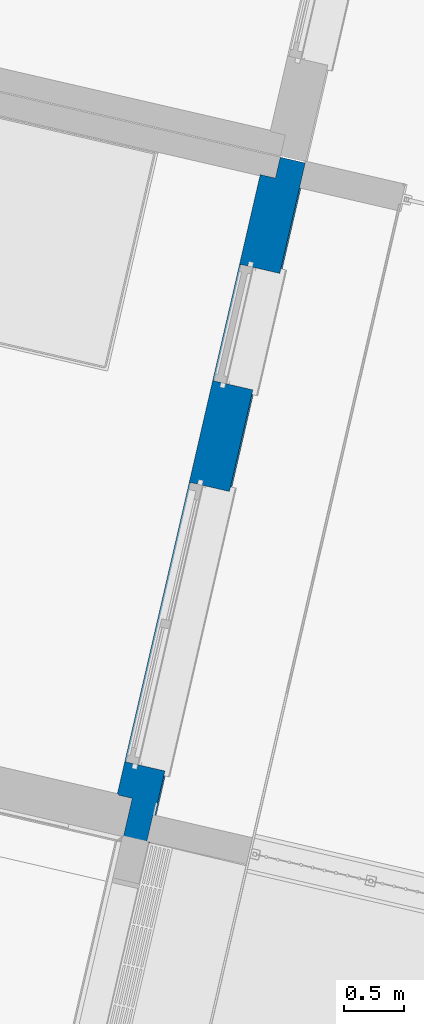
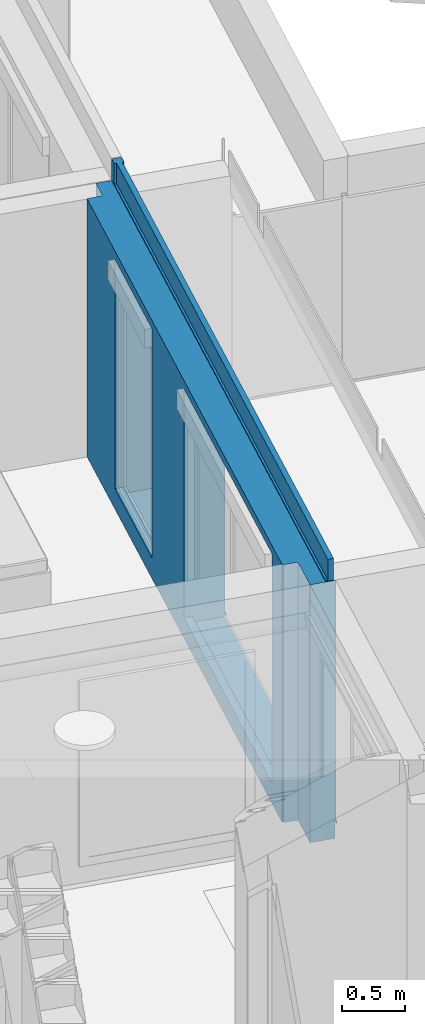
# One storey, part 25 of 119: 1 wall, 2 openings.
"""IFC2X3 building model written with IfcOpenShell, lengths in metres."""

from ifc_helpers import new_model, entity, si_unit, converted_unit, derived_unit, money_unit, direction, frame, origin_with_axes, place, context, subcontext, project, spatial, faceted_brep, material, material_list, type_object, element, save


model = new_model("IFC2X3")

# Units and contexts
model_context = context("Model", 3, precision=1e-05, world=origin_with_axes(), true_north=direction((0.0, 1.0)))
body_context = subcontext(model_context, "Body", "Model", "MODEL_VIEW")
ifc_project = project(units=[si_unit("LENGTHUNIT", "METRE"), si_unit("AREAUNIT", "SQUARE_METRE"), si_unit("VOLUMEUNIT", "CUBIC_METRE"), converted_unit("PLANEANGLEUNIT", "DEGREE", entity("IfcPlaneAngleMeasure", 0.0174532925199), si_unit("PLANEANGLEUNIT", "RADIAN"), dimensions=[0, 0, 0, 0, 0, 0, 0]), si_unit("SOLIDANGLEUNIT", "STERADIAN"), money_unit("EUR"), converted_unit("TIMEUNIT", "Year", entity("IfcTimeMeasure", 31556926.0), si_unit("TIMEUNIT", "SECOND"), dimensions=[0, 0, 1, 0, 0, 0, 0]), si_unit("MASSUNIT", "GRAM", prefix="KILO"), si_unit("THERMODYNAMICTEMPERATUREUNIT", "DEGREE_CELSIUS"), si_unit("LUMINOUSINTENSITYUNIT", "LUMEN"), si_unit("ENERGYUNIT", "JOULE", prefix="MEGA"), derived_unit("THERMALCONDUCTANCEUNIT", [(si_unit("POWERUNIT", "WATT"), 1), (si_unit("LENGTHUNIT", "METRE"), -1), (si_unit("THERMODYNAMICTEMPERATUREUNIT", "KELVIN"), -1)]), derived_unit("SPECIFICHEATCAPACITYUNIT", [(si_unit("ENERGYUNIT", "JOULE"), 1), (si_unit("MASSUNIT", "GRAM", prefix="KILO"), -1), (si_unit("THERMODYNAMICTEMPERATUREUNIT", "KELVIN"), -1)]), derived_unit("MASSDENSITYUNIT", [(si_unit("MASSUNIT", "GRAM", prefix="KILO"), 1), (si_unit("VOLUMEUNIT", "CUBIC_METRE"), -1)])], contexts=[model_context])

# Site, building, storey
site_placement = place(None, origin_with_axes())
site = spatial("IfcSite", under=ifc_project, at=site_placement, Name="Site", CompositionType="ELEMENT")
building_placement = place(site_placement, origin_with_axes())
building = spatial("IfcBuilding", under=site, at=building_placement, Name="Bâtiment", CompositionType="ELEMENT")
storey_placement = place(building_placement, origin_with_axes())
storey = spatial("IfcBuildingStorey", under=building, at=storey_placement, Name="Rez-de-chaussée", CompositionType="ELEMENT", Elevation=0.0)

# Wall, openings
ifc_material_1 = material(Name="Métal - Aluminium")
ifc_material_2 = material(Name="Finition ext - Crépis")
ifc_material_3 = material(Name="Etanchéité - Bitume")
ifc_material_4 = material(Name="Béton cellulaire")
ifc_material_5 = material(Name="Mortier")
ifc_material_6 = material(Name="Isolation - Polystyrène expansé")
ifc_material_7 = material(Name="Bloc ELITHERM")
ifc_material_8 = material(Name="Isolation - Polystyrène extrudé")
ifc_material_9 = material(Name="Finition int - Plaque de plâtre")
ifc_material_list = material_list([ifc_material_1, ifc_material_2, ifc_material_3, ifc_material_4, ifc_material_5, ifc_material_6, ifc_material_7, ifc_material_8, ifc_material_9])
wall_type = type_object("IfcWallType", Name="Mur ALKERN + planelle 21 TERRASSE RDC 356 x 2720", PredefinedType="USERDEFINED")
wall_placement = place(storey_placement, frame((-2.04334825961, 2.56403726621, 0.0), z_axis=(0.0, 0.0, 1.0), x_axis=(-0.224876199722, -0.974387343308, 0.0)))
wall = element("IfcWall", 1, at=wall_placement, inside=storey, type_object=wall_type, material=ifc_material_list, Name="Mue bloc ALKERN isolé", ObjectType="SOLIDWALL", context=body_context, shape_type="Brep", body=[
    faceted_brep([(0.949060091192, -0.03, 0.170774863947), (0.949060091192, -0.0035607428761, 0.162931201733), (1.47695189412e-10, -0.0035607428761, 0.162931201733), (1.37886146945e-10, -0.03, 0.170774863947), (0.949060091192, -0.0035607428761, 0.14), (0.949060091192, -0.0300000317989, 0.176532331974), (0.949060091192, -0.0300000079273, 0.2), (0.949060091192, -0.0310453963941, 0.2), (0.949060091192, -0.0310453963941, 0.169727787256), (0.949060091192, -0.03, 0.169414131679), (0.949060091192, -0.00479482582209, 0.161852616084), (0.949060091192, -0.00479482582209, 0.14), (1.94906009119, -0.0035607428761, 0.14), (1.94906009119, -0.0035607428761, 0.162931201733), (2.82189595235, -0.0035607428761, 0.162931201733), (2.82189595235, -0.0035607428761, 0.14), (5.22189595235, -0.0035607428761, 0.14), (5.22189595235, -0.0035607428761, 0.162931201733), (5.83660943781, -0.0035607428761, 0.162931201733), (5.83660943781, -0.0035607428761, 0.133633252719), (1.47695189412e-10, -0.0035607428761, 0.133633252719), (1.37886146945e-10, -0.03, 0.207793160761), (1.37885702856e-10, -0.0300000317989, 0.176532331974), (1.47236001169e-10, -0.00479482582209, 0.133633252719), (1.47236001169e-10, -0.00479482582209, 0.161852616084), (1.37886146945e-10, -0.03, 0.169414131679), (1.37498457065e-10, -0.0310453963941, 0.169727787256), (1.37498457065e-10, -0.0310453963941, 0.207793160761), (0.949060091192, -0.03, 0.207793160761), (0.949060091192, -0.0310453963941, 0.207793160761), (5.83660943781, -0.00479482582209, 0.133633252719), (5.83660943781, -0.00479482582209, 0.161852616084), (5.22189595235, -0.00479482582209, 0.161852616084), (5.22189595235, -0.00479482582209, 0.14), (2.82189595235, -0.00479482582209, 0.14), (2.82189595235, -0.00479482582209, 0.161852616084), (1.94906009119, -0.00479482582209, 0.161852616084), (1.94906009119, -0.00479482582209, 0.14), (1.94906009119, -0.03, 0.170774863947), (1.94906009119, -0.03, 0.169414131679), (1.94906009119, -0.0310453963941, 0.169727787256), (1.94906009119, -0.0310453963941, 0.2), (1.94906009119, -0.0300000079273, 0.2), (1.94906009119, -0.0300000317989, 0.176532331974), (2.82189595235, -0.03, 0.170774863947), (2.82189595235, -0.0300000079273, 0.2), (2.82189595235, -0.0310453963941, 0.2), (2.82189595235, -0.0310453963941, 0.169727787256), (2.82189595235, -0.03, 0.169414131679), (2.82189595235, -0.0300000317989, 0.176532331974), (5.22189595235, -0.03, 0.169414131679), (5.22189595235, -0.0310453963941, 0.169727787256), (5.22189595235, -0.0310453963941, 0.2), (5.22189595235, -0.0300000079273, 0.2), (5.22189595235, -0.0300000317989, 0.176532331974), (5.22189595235, -0.03, 0.170774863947), (5.83660943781, -0.03, 0.170774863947), (5.83660943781, -0.0300000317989, 0.176532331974), (5.83660943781, -0.03, 0.207793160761), (5.83660943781, -0.0310453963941, 0.207793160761), (5.83660943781, -0.0310453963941, 0.169727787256), (5.83660943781, -0.03, 0.169414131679), (2.82189595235, -0.0310453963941, 0.207793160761), (1.94906009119, -0.0310453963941, 0.207793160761), (1.94906009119, -0.03, 0.207793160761), (2.82189595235, -0.03, 0.207793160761), (5.22189595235, -0.0310453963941, 0.207793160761), (5.22189595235, -0.03, 0.207793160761)], [[[0, 1, 2, 3]], [[4, 1, 0, 5, 6, 7, 8, 9, 10, 11]], [[12, 13, 14, 15, 16, 17, 18, 19, 20, 2, 1, 4]], [[21, 22, 3, 2, 20, 23, 24, 25, 26, 27]], [[5, 0, 3, 22]], [[6, 5, 22, 21, 28]], [[7, 6, 28, 29]], [[8, 7, 29, 27, 26]], [[9, 8, 26, 25]], [[10, 9, 25, 24]], [[11, 10, 24, 23, 30, 31, 32, 33, 34, 35, 36, 37]], [[12, 4, 11, 37]], [[38, 13, 12, 37, 36, 39, 40, 41, 42, 43]], [[13, 38, 44, 14]], [[45, 46, 47, 48, 35, 34, 15, 14, 44, 49]], [[34, 33, 16, 15]], [[32, 50, 51, 52, 53, 54, 55, 17, 16, 33]], [[56, 18, 17, 55]], [[31, 30, 19, 18, 56, 57, 58, 59, 60, 61]], [[23, 20, 19, 30]], [[28, 21, 27, 29]], [[31, 61, 50, 32]], [[39, 36, 35, 48]], [[40, 39, 48, 47]], [[41, 40, 47, 46, 62, 63]], [[42, 41, 63, 64]], [[43, 42, 64, 65, 45, 49]], [[38, 43, 49, 44]], [[65, 62, 46, 45]], [[61, 60, 51, 50]], [[66, 52, 51, 60, 59]], [[66, 67, 53, 52]], [[57, 54, 53, 67, 58]], [[57, 56, 55, 54]], [[58, 67, 66, 59]], [[63, 62, 65, 64]]]),
    faceted_brep([(5.83160943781, -0.0150000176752, 2.51), (5.83660943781, -0.0150000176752, 2.51), (5.83660943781, -0.0150000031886, 0.176532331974), (5.83160943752, -0.0150000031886, 0.176532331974), (5.83160943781, -0.0299999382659, 2.51), (5.83660943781, -0.0300000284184, 2.51), (5.83660943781, -0.0300000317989, 0.176532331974), (5.83160943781, -0.0299999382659, 0.176532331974)], [[[0, 1, 2, 3]], [[1, 0, 4, 5]], [[5, 6, 2, 1]], [[6, 7, 3, 2]], [[7, 4, 0, 3]], [[5, 4, 7, 6]]]),
    faceted_brep([(0.949060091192, -0.0150000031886, 0.2), (0.949060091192, -0.0150000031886, 0.176532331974), (1.43451472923e-10, -0.0150000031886, 0.176532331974), (1.43450584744e-10, -0.0150000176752, 2.51), (0.0, -0.0150000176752, 2.72000000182), (0.0679999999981, -0.0150000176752, 2.72), (0.0679999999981, -0.0150000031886, 2.51), (5.60160943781, -0.0150000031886, 2.51), (5.60160943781, -0.0150000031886, 0.176532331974), (5.22189595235, -0.0150000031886, 0.176532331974), (5.22189595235, -0.0150000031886, 0.2), (5.22189595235, -0.0150000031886, 2.25), (2.82189595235, -0.0150000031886, 2.25), (2.82189595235, -0.0150000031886, 0.2), (2.82189595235, -0.0150000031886, 0.176532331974), (1.94906009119, -0.0150000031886, 0.176532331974), (1.94906009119, -0.0150000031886, 0.2), (1.94906009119, -0.0150000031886, 2.25), (0.949060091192, -0.0150000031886, 2.25), (0.949060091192, -0.0299999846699, 0.2), (0.949060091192, -0.0300000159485, 0.176532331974), (1.37885258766e-10, -0.0300000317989, 0.176532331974), (1.37885258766e-10, -0.0300000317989, 2.51), (0.0, -0.0299999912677, 2.72000000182), (0.0679999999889, -0.0299999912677, 2.72), (0.0679999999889, -0.0299999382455, 2.51), (5.60160943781, -0.0299999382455, 2.51), (5.60160943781, -0.0299999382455, 0.176532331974), (5.22189595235, -0.0299999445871, 0.176532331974), (5.22189595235, -0.0299999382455, 0.2), (5.22189595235, -0.0299999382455, 2.25), (2.82189595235, -0.0299999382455, 2.25), (2.82189595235, -0.0299999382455, 0.2), (2.82189595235, -0.0299999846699, 0.176532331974), (1.94906009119, -0.0299999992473, 0.176532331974), (1.94906009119, -0.0299999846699, 0.2), (1.94906009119, -0.0299999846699, 2.25), (0.949060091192, -0.0299999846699, 2.25)], [[[0, 1, 2, 3, 4, 5, 6, 7, 8, 9, 10, 11, 12, 13, 14, 15, 16, 17, 18]], [[1, 0, 19, 20]], [[1, 20, 21, 2]], [[2, 21, 22, 3]], [[23, 4, 3, 22]], [[24, 5, 4, 23]], [[6, 5, 24, 25]], [[7, 6, 25, 26]], [[7, 26, 27, 8]], [[8, 27, 28, 9]], [[9, 28, 29, 10]], [[30, 11, 10, 29]], [[31, 12, 11, 30]], [[12, 31, 32, 13]], [[32, 33, 14, 13]], [[34, 15, 14, 33]], [[35, 16, 15, 34]], [[16, 35, 36, 17]], [[17, 36, 37, 18]], [[19, 0, 18, 37]], [[20, 19, 37, 36, 35, 34, 33, 32, 31, 30, 29, 28, 27, 26, 25, 24, 23, 22, 21]]]),
    faceted_brep([(0.949060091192, -0.0300000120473, 0.160000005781), (0.949060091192, -0.02, 0.160000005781), (1.41596512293e-10, -0.02, 0.160000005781), (1.37885702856e-10, -0.0300000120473, 0.160000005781), (0.949060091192, -0.02, 0.14), (0.949060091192, -0.0299999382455, 0.14), (1.94906009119, -0.02, 0.14), (1.94906009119, -0.02, 0.160000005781), (2.82189595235, -0.02, 0.160000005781), (2.82189595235, -0.02, 0.14), (5.22189595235, -0.02, 0.14), (5.22189595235, -0.02, 0.160000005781), (5.83660943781, -0.02, 0.160000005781), (5.83660943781, -0.02, 0.0), (5.83160943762, -0.02, 0.0), (5.83160943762, -0.02, 0.133633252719), (5.60160943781, -0.02, 0.133633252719), (5.60160943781, -0.02, 0.01), (2.00555270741, -0.02, 0.01), (2.00555270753, -0.0200000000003, 0.0), (1.41594735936e-10, -0.02, 0.0), (1.37885702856e-10, -0.0300000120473, 0.0), (5.60160943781, -0.0299999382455, 0.0), (5.60160943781, -0.0299999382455, 0.133633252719), (5.83160943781, -0.0299999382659, 0.133633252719), (5.83160943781, -0.0299999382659, 0.0), (5.83660943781, -0.0300000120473, 0.0), (5.83660943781, -0.0300000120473, 0.160000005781), (5.22189595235, -0.0300000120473, 0.160000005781), (5.22189595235, -0.0299999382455, 0.14), (2.82189595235, -0.0299999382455, 0.14), (2.82189595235, -0.0300000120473, 0.160000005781), (1.94906009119, -0.0300000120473, 0.160000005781), (1.94906009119, -0.0299999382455, 0.14), (5.60160943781, -0.0299583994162, 0.01), (5.60160943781, -0.0299583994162, 0.0)], [[[0, 1, 2, 3]], [[4, 1, 0, 5]], [[6, 7, 8, 9, 10, 11, 12, 13, 14, 15, 16, 17, 18, 19, 20, 2, 1, 4]], [[3, 2, 20, 21]], [[5, 0, 3, 21, 22, 23, 24, 25, 26, 27, 28, 29, 30, 31, 32, 33]], [[6, 4, 5, 33]], [[32, 7, 6, 33]], [[7, 32, 31, 8]], [[8, 31, 30, 9]], [[9, 30, 29, 10]], [[11, 10, 29, 28]], [[28, 27, 12, 11]], [[13, 12, 27, 26]], [[14, 13, 26, 25]], [[14, 25, 24, 15]], [[15, 24, 23, 16]], [[34, 17, 16, 23, 22, 35]], [[18, 17, 34]], [[34, 35, 19, 18]], [[20, 19, 35, 22, 21]]]),
    faceted_brep([(5.82660943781, -0.0780000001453, 2.72000000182), (5.82660943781, -0.03, 2.72000000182), (0.0, -0.03, 2.72000000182), (0.0, -0.0780000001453, 2.72000000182), (5.82660943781, -0.03, 2.51999999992), (5.82660943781, -0.0780000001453, 2.51999999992), (0.0, -0.03, 2.51999999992), (0.0, -0.0780000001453, 2.51999999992)], [[[0, 1, 2, 3]], [[4, 1, 0, 5]], [[1, 4, 6, 2]], [[3, 2, 6, 7]], [[5, 0, 3, 7]], [[4, 5, 7, 6]]]),
    faceted_brep([(1.37885702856e-10, -0.03, 2.50955), (1.37885702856e-10, -0.03, 2.51), (0.0, -0.03, 2.52), (5.82660943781, -0.03, 2.52), (5.82660943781, -0.03, 2.51), (5.83660943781, -0.03, 2.51), (5.83660943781, -0.03, 2.50955), (1.12656550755e-10, -0.098000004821, 2.51), (1.12656550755e-10, -0.098, 2.50955), (0.0, -0.098000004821, 2.52), (5.82660943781, -0.098000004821, 2.52), (5.82660943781, -0.098000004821, 2.51), (5.8366094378, -0.098000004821, 2.51), (5.8366094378, -0.098, 2.50955)], [[[0, 1, 2, 3, 4, 5, 6]], [[7, 1, 0, 8]], [[1, 7, 9, 2]], [[10, 3, 2, 9]], [[4, 3, 10, 11]], [[12, 5, 4, 11]], [[6, 5, 12, 13]], [[8, 0, 6, 13]], [[7, 8, 13, 12, 11, 10, 9]]]),
    faceted_brep([(0.0679999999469, -0.0979999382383, 2.72), (0.0679999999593, -0.0780000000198, 2.72), (0.0, -0.0780000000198, 2.72000000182), (0.0, -0.098000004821, 2.72000000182), (0.0680000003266, -0.0780000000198, 2.51999999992), (0.0679999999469, -0.0979999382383, 2.51999999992), (0.0, -0.0780000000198, 2.51999999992), (0.0, -0.098000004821, 2.51999999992)], [[[0, 1, 2, 3]], [[4, 1, 0, 5]], [[1, 4, 6, 2]], [[7, 3, 2, 6]], [[5, 0, 3, 7]], [[4, 5, 7, 6]]]),
    faceted_brep([(0.949060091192, -0.0310453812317, 0.169727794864), (0.949060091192, -0.03, 0.169414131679), (1.37886146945e-10, -0.03, 0.169414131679), (1.37498457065e-10, -0.0310453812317, 0.169727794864), (0.949060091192, -0.0300000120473, 0.160000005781), (0.949060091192, -0.0310453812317, 0.2), (0.949060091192, -0.229999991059, 0.2), (0.949060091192, -0.229999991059, 0.14), (0.949060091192, -0.0300000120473, 0.14), (1.37885702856e-10, -0.0300000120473, 0.160000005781), (1.37886146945e-10, -0.03, 0.207793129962), (1.37498457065e-10, -0.0310453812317, 0.207793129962), (1.37886146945e-10, -0.03, 0.0), (0.0, -0.229999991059, 0.0), (0.0, -0.229999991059, 2.50955001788), (1.12657438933e-10, -0.0979999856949, 2.50955001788), (1.37886146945e-10, -0.03, 2.50955001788), (0.949060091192, -0.0310453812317, 0.207793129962), (0.949060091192, -0.03, 0.207793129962), (0.949060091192, -0.03, 2.25), (0.949060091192, -0.218560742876, 2.25), (0.949060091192, -0.229999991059, 2.25), (5.83660943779, -0.229999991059, 0.0), (5.83660943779, -0.229999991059, 2.50955001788), (5.22189595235, -0.229999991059, 0.14), (2.82189595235, -0.229999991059, 0.14), (2.82189595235, -0.229999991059, 0.2), (2.82189595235, -0.229999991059, 2.25), (2.82189595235, -0.229999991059, 2.43), (5.22189595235, -0.229999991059, 2.43), (5.22189595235, -0.229999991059, 2.25), (5.22189595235, -0.229999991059, 0.2), (0.949060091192, -0.229999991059, 2.43), (1.94906009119, -0.229999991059, 2.43), (1.94906009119, -0.229999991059, 2.25), (1.94906009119, -0.229999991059, 0.2), (1.94906009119, -0.229999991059, 0.14), (1.94906009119, -0.0300000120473, 0.14), (1.94906009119, -0.0300000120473, 0.160000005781), (2.82189595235, -0.0300000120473, 0.160000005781), (2.82189595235, -0.0300000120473, 0.14), (5.22189595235, -0.0300000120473, 0.14), (5.22189595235, -0.0300000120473, 0.160000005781), (5.83660943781, -0.0300000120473, 0.160000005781), (5.83660943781, -0.03, 0.0), (5.8366094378, -0.0979999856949, 2.50955001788), (5.83660943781, -0.03, 2.50955001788), (5.83660943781, -0.03, 0.207793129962), (5.22189595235, -0.03, 0.207793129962), (5.22189595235, -0.03, 2.25), (2.82189595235, -0.03, 2.25), (2.82189595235, -0.03, 0.207793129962), (1.94906009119, -0.03, 0.207793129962), (1.94906009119, -0.03, 2.25), (1.94906009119, -0.218560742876, 2.25), (0.949060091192, -0.218560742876, 2.43), (5.83660943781, -0.03, 0.169414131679), (5.83660943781, -0.0310453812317, 0.169727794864), (5.83660943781, -0.0310453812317, 0.207793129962), (2.82189595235, -0.03, 0.169414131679), (2.82189595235, -0.0310453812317, 0.169727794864), (2.82189595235, -0.0310453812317, 0.2), (2.82189595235, -0.218560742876, 2.25), (2.82189595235, -0.0310453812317, 0.207793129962), (2.82189595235, -0.218560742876, 2.43), (5.22189595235, -0.218560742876, 2.43), (5.22189595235, -0.218560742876, 2.25), (5.22189595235, -0.0310453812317, 0.207793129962), (5.22189595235, -0.0310453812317, 0.2), (5.22189595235, -0.0310453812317, 0.169727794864), (5.22189595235, -0.03, 0.169414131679), (1.94906009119, -0.218560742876, 2.43), (1.94906009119, -0.0310453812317, 0.2), (1.94906009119, -0.0310453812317, 0.207793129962), (1.94906009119, -0.0310453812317, 0.169727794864), (1.94906009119, -0.03, 0.169414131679)], [[[0, 1, 2, 3]], [[4, 1, 0, 5, 6, 7, 8]], [[1, 4, 9, 2]], [[10, 11, 3, 2, 9, 12, 13, 14, 15, 16]], [[5, 0, 3, 11, 17]], [[6, 5, 17, 18, 19, 20, 21]], [[22, 23, 14, 13], [24, 25, 26, 27, 28, 29, 30, 31], [7, 6, 21, 32, 33, 34, 35, 36]], [[37, 8, 7, 36]], [[37, 38, 39, 40, 41, 42, 43, 44, 12, 9, 4, 8]], [[11, 10, 18, 17]], [[44, 22, 13, 12]], [[23, 45, 15, 14]], [[45, 46, 16, 15]], [[46, 47, 48, 49, 50, 51, 52, 53, 19, 18, 10, 16]], [[20, 19, 53, 54]], [[20, 55, 32, 21]], [[45, 23, 22, 44, 43, 56, 57, 58, 47, 46]], [[24, 41, 40, 25]], [[25, 40, 39, 59, 60, 61, 26]], [[62, 27, 26, 61, 63, 51, 50]], [[27, 62, 64, 28]], [[29, 28, 64, 65]], [[66, 30, 29, 65]], [[48, 67, 68, 31, 30, 66, 49]], [[31, 68, 69, 70, 42, 41, 24]], [[32, 55, 71, 33]], [[34, 33, 71, 54]], [[72, 35, 34, 54, 53, 52, 73]], [[74, 75, 38, 37, 36, 35, 72]], [[38, 75, 59, 39]], [[43, 42, 70, 56]], [[48, 47, 58, 67]], [[66, 62, 50, 49]], [[51, 63, 73, 52]], [[54, 71, 55, 20]], [[56, 70, 69, 57]], [[68, 67, 58, 57, 69]], [[75, 74, 60, 59]], [[74, 72, 73, 63, 61, 60]], [[62, 66, 65, 64]]]),
    faceted_brep([(0.949060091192, -0.289560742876, 0.2), (0.949060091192, -0.289560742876, 0.14), (0.949060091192, -0.22999997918, 0.14), (0.949060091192, -0.22999997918, 0.2), (0.949060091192, -0.22999997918, 2.25), (0.949060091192, -0.22999997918, 2.43), (0.949060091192, -0.350000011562, 2.43), (0.949060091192, -0.350000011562, 2.25), (0.949060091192, -0.350000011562, 0.2), (1.94906009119, -0.289560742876, 0.2), (1.94906009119, -0.289560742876, 0.14), (1.94906009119, -0.22999997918, 0.14), (0.179999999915, -0.22999997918, 2.50955), (5.50660943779, -0.22999997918, 2.50955), (5.50660943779, -0.22999997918, 0.0), (0.179999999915, -0.22999997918, 0.0), (2.82189595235, -0.22999997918, 2.43), (2.82189595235, -0.22999997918, 2.25), (2.82189595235, -0.22999997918, 0.2), (2.82189595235, -0.22999997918, 0.14), (5.22189595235, -0.22999997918, 0.14), (5.22189595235, -0.22999997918, 0.2), (5.22189595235, -0.22999997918, 2.25), (5.22189595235, -0.22999997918, 2.43), (1.94906009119, -0.22999997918, 0.2), (1.94906009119, -0.22999997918, 2.25), (1.94906009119, -0.22999997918, 2.43), (1.94906009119, -0.350000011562, 2.43), (5.50660943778, -0.350000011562, 2.50955), (0.17999999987, -0.350000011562, 2.50955), (0.17999999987, -0.350000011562, 0.0), (5.50660943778, -0.350000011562, 0.0), (2.82189595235, -0.350000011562, 0.2), (2.82189595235, -0.350000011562, 2.25), (2.82189595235, -0.350000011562, 2.43), (5.22189595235, -0.350000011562, 2.43), (5.22189595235, -0.350000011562, 2.25), (5.22189595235, -0.350000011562, 0.2), (1.94906009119, -0.350000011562, 2.25), (1.94906009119, -0.350000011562, 0.2), (2.82189595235, -0.289560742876, 0.2), (2.82189595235, -0.289560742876, 0.14), (5.22189595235, -0.289560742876, 0.14), (5.22189595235, -0.289560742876, 0.2)], [[[0, 1, 2, 3, 4, 5, 6, 7, 8]], [[0, 9, 10, 1]], [[11, 2, 1, 10]], [[12, 13, 14, 15], [16, 17, 18, 19, 20, 21, 22, 23], [11, 24, 25, 26, 5, 4, 3, 2]], [[26, 27, 6, 5]], [[28, 29, 30, 31], [32, 33, 34, 35, 36, 37], [8, 7, 6, 27, 38, 39]], [[9, 0, 8, 39]], [[24, 11, 10, 9, 39, 38, 27, 26, 25]], [[13, 12, 29, 28]], [[14, 13, 28, 31]], [[31, 30, 15, 14]], [[30, 29, 12, 15]], [[34, 33, 32, 40, 41, 19, 18, 17, 16]], [[20, 19, 41, 42]], [[35, 23, 22, 21, 20, 42, 43, 37, 36]], [[23, 35, 34, 16]], [[43, 40, 32, 37]], [[40, 43, 42, 41]]]),
    faceted_brep([(0.17999999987, -0.350000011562, 2.50955), (5.49660943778, -0.350000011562, 2.50955), (5.49660943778, -0.350000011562, 0.0), (0.17999999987, -0.350000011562, 0.0), (5.22189595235, -0.350000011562, 2.25), (5.22189595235, -0.350000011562, 2.43), (2.82189595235, -0.350000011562, 2.43), (2.82189595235, -0.350000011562, 2.25), (2.82189595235, -0.350000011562, 0.2), (5.22189595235, -0.350000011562, 0.2), (1.94906009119, -0.350000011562, 2.25), (1.94906009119, -0.350000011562, 2.43), (0.949060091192, -0.350000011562, 2.43), (0.949060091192, -0.350000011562, 2.25), (0.949060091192, -0.350000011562, 0.2), (1.94906009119, -0.350000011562, 0.2), (0.179999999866, -0.359999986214, 2.50955), (5.49660943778, -0.359999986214, 2.50955), (5.49660943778, -0.359999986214, 0.0), (0.179999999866, -0.359999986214, 0.0), (5.22189595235, -0.359999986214, 2.25), (5.22189595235, -0.359999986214, 2.43), (5.22189595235, -0.359999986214, 0.2), (2.82189595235, -0.359999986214, 2.43), (2.82189595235, -0.359999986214, 2.25), (2.82189595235, -0.359999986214, 0.2), (1.94906009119, -0.359999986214, 2.25), (1.94906009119, -0.359999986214, 2.43), (1.94906009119, -0.359999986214, 0.2), (0.949060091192, -0.359999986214, 2.43), (0.949060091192, -0.359999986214, 2.25), (0.949060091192, -0.359999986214, 0.2)], [[[0, 1, 2, 3], [4, 5, 6, 7, 8, 9], [10, 11, 12, 13, 14, 15]], [[1, 0, 16, 17]], [[2, 1, 17, 18]], [[18, 19, 3, 2]], [[19, 16, 0, 3]], [[20, 21, 5, 4, 9, 22]], [[21, 23, 6, 5]], [[7, 6, 23, 24, 25, 8]], [[22, 9, 8, 25]], [[26, 27, 11, 10, 15, 28]], [[12, 11, 27, 29]], [[13, 12, 29, 30, 31, 14]], [[14, 31, 28, 15]], [[17, 16, 19, 18], [21, 20, 22, 25, 24, 23], [27, 26, 28, 31, 30, 29]]]),
])
opening_1_placement = place(wall_placement, frame((4.02189595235, 0.0, 0.2), z_axis=(0.0, 0.0, 1.0), x_axis=(1.0, 0.0, 0.0)))
element("IfcOpeningElement", 2, at=opening_1_placement, cuts=wall, Name="MEN 01", context=body_context, shape_type="Brep", body=[
    faceted_brep([(-1.2, -0.248560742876, 0.0), (1.2, -0.248560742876, 0.0), (1.2, -0.849999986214, 0.0), (-1.2, -0.849999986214, 0.0), (-1.2, -0.248560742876, 2.05), (1.2, -0.248560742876, 2.05), (1.2, -0.849999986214, 2.05), (-1.2, -0.849999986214, 2.05)], [[[0, 1, 2, 3]], [[0, 4, 5, 1]], [[1, 5, 6, 2]], [[3, 2, 6, 7]], [[4, 0, 3, 7]], [[5, 4, 7, 6]]]),
    faceted_brep([(-1.2, -0.248560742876, 0.0), (-1.2, -0.248560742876, 2.05), (-1.2, 0.352878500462, 2.05), (-1.2, 0.352878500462, 0.0), (1.2, -0.248560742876, 0.0), (1.2, -0.248560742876, 2.05), (1.2, 0.352878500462, 2.05), (1.2, 0.352878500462, 0.0)], [[[0, 1, 2, 3]], [[0, 4, 5, 1]], [[1, 5, 6, 2]], [[3, 2, 6, 7]], [[4, 0, 3, 7]], [[5, 4, 7, 6]]]),
    faceted_brep([(-1.2, -0.248560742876, 0.0), (-1.2, -0.248560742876, 2.05), (-1.2, 0.352878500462, 2.05), (-1.2, 0.352878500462, 0.0), (1.2, -0.248560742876, 0.0), (1.2, -0.248560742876, 2.05), (1.2, 0.352878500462, 2.05), (1.2, 0.352878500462, 0.0)], [[[0, 1, 2, 3]], [[0, 4, 5, 1]], [[1, 5, 6, 2]], [[3, 2, 6, 7]], [[4, 0, 3, 7]], [[5, 4, 7, 6]]]),
    faceted_brep([(-1.2, -0.218560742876, 2.05), (1.2, -0.218560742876, 2.05), (1.2, -0.819999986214, 2.05), (-1.2, -0.819999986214, 2.05), (-1.2, -0.218560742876, 2.23), (1.2, -0.218560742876, 2.23), (1.2, -0.819999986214, 2.23), (-1.2, -0.819999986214, 2.23)], [[[0, 1, 2, 3]], [[0, 4, 5, 1]], [[1, 5, 6, 2]], [[3, 2, 6, 7]], [[4, 0, 3, 7]], [[5, 4, 7, 6]]]),
    faceted_brep([(-1.2, -0.289560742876, 0.0), (1.2, -0.289560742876, 0.0), (1.2, 0.311878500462, 0.0), (-1.2, 0.311878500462, 0.0), (-1.2, -0.289560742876, -0.06), (1.2, -0.289560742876, -0.06), (1.2, 0.311878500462, -0.06), (-1.2, 0.311878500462, -0.06)], [[[0, 1, 2, 3]], [[0, 4, 5, 1]], [[1, 5, 6, 2]], [[3, 2, 6, 7]], [[4, 0, 3, 7]], [[5, 4, 7, 6]]]),
])
opening_2_placement = place(wall_placement, frame((1.44906009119, 0.0, 0.2), z_axis=(0.0, 0.0, 1.0), x_axis=(1.0, 0.0, 0.0)))
element("IfcOpeningElement", 3, at=opening_2_placement, cuts=wall, Name="MEN 02", context=body_context, shape_type="Brep", body=[
    faceted_brep([(-0.5, -0.248560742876, 0.0), (0.5, -0.248560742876, 0.0), (0.5, -0.849999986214, 0.0), (-0.5, -0.849999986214, 0.0), (-0.5, -0.248560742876, 2.05), (0.5, -0.248560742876, 2.05), (0.5, -0.849999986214, 2.05), (-0.5, -0.849999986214, 2.05)], [[[0, 1, 2, 3]], [[0, 4, 5, 1]], [[1, 5, 6, 2]], [[3, 2, 6, 7]], [[4, 0, 3, 7]], [[5, 4, 7, 6]]]),
    faceted_brep([(-0.5, -0.248560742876, 0.0), (-0.5, -0.248560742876, 2.05), (-0.5, 0.352878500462, 2.05), (-0.5, 0.352878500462, 0.0), (0.5, -0.248560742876, 0.0), (0.5, -0.248560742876, 2.05), (0.5, 0.352878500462, 2.05), (0.5, 0.352878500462, 0.0)], [[[0, 1, 2, 3]], [[0, 4, 5, 1]], [[1, 5, 6, 2]], [[3, 2, 6, 7]], [[4, 0, 3, 7]], [[5, 4, 7, 6]]]),
    faceted_brep([(-0.5, -0.248560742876, 0.0), (-0.5, -0.248560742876, 2.05), (-0.5, 0.352878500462, 2.05), (-0.5, 0.352878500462, 0.0), (0.5, -0.248560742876, 0.0), (0.5, -0.248560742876, 2.05), (0.5, 0.352878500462, 2.05), (0.5, 0.352878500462, 0.0)], [[[0, 1, 2, 3]], [[0, 4, 5, 1]], [[1, 5, 6, 2]], [[3, 2, 6, 7]], [[4, 0, 3, 7]], [[5, 4, 7, 6]]]),
    faceted_brep([(-0.5, -0.218560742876, 2.05), (0.5, -0.218560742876, 2.05), (0.5, -0.819999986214, 2.05), (-0.5, -0.819999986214, 2.05), (-0.5, -0.218560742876, 2.23), (0.5, -0.218560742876, 2.23), (0.5, -0.819999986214, 2.23), (-0.5, -0.819999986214, 2.23)], [[[0, 1, 2, 3]], [[0, 4, 5, 1]], [[1, 5, 6, 2]], [[3, 2, 6, 7]], [[4, 0, 3, 7]], [[5, 4, 7, 6]]]),
    faceted_brep([(-0.5, -0.289560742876, 0.0), (0.5, -0.289560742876, 0.0), (0.5, 0.311878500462, 0.0), (-0.5, 0.311878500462, 0.0), (-0.5, -0.289560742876, -0.06), (0.5, -0.289560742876, -0.06), (0.5, 0.311878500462, -0.06), (-0.5, 0.311878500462, -0.06)], [[[0, 1, 2, 3]], [[0, 4, 5, 1]], [[1, 5, 6, 2]], [[3, 2, 6, 7]], [[4, 0, 3, 7]], [[5, 4, 7, 6]]]),
])

save(model, "model.ifc")
